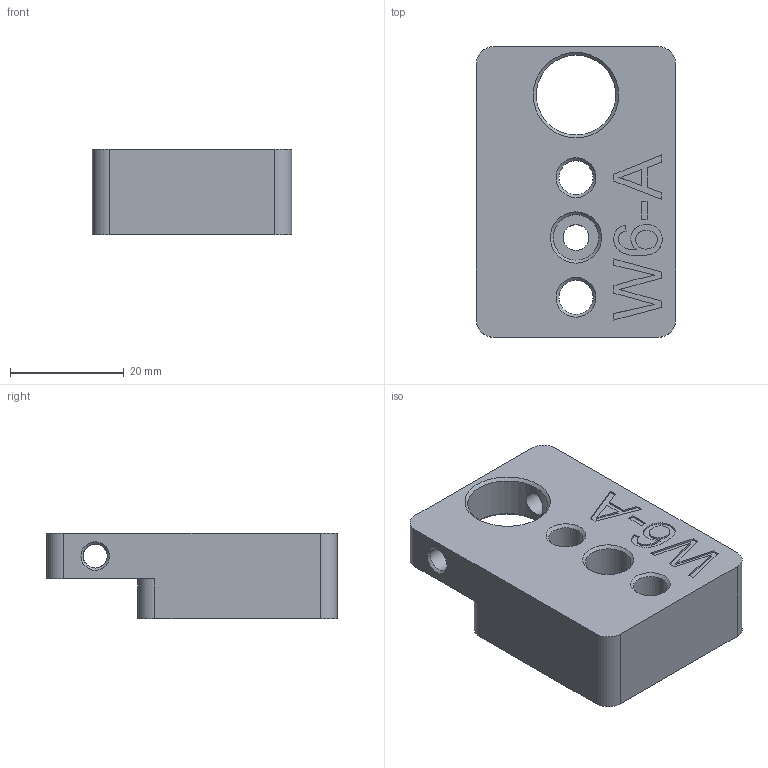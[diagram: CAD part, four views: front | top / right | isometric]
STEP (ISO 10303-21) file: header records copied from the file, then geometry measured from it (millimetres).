
FILE_DESCRIPTION(/* description */ (''),/* implementation_level */ '2;1');
FILE_NAME(/* name */ 'WHEELS-INSERT.01.stp',/* time_stamp */ '2018-05-25T14:02:30+02:00',/* author */ (''),/* organization */ (''),/* preprocessor_version */ 'ST-DEVELOPER v16.7',/* originating_system */ 'SIEMENS PLM Software NX 12.0',/* authorisation */ '');
FILE_SCHEMA (('AP203_CONFIGURATION_CONTROLLED_3D_DESIGN_OF_MECHANICAL_PARTS_AND_ASSEMBLIES_MIM_LF { 1 0 10303 403 2 1 2}'));
Length unit declared in the file: millimetre
Products named in the file (1): turc66A81BAD9zb1
Bounding box: 35 x 51 x 15 mm (x, y, z)
Volume: 19869.1 mm3; surface area: 6786.9 mm2
Topology: 1 solids, 1 shells, 72 faces, 188 edges, 123 vertices
Faces by surface type: plane 36, cylinder 13, extrusion 13, cone 10
Full cylindrical faces by diameter (mm): 4.2 x2, 4.5 x1, 6 x2, 8 x1, 14 x1
Entity records: 2560 total; most frequent: CARTESIAN_POINT 889, ORIENTED_EDGE 326, DIRECTION 260, EDGE_CURVE 163, VERTEX_POINT 116, EDGE_LOOP 107, AXIS2_PLACEMENT_3D 94, B_SPLINE_CURVE_WITH_KNOTS 83
